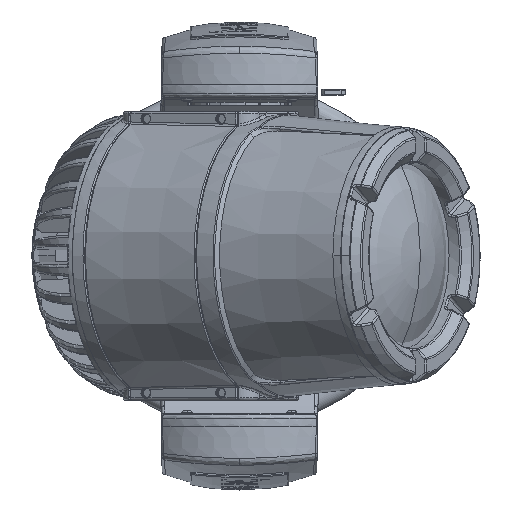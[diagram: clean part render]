
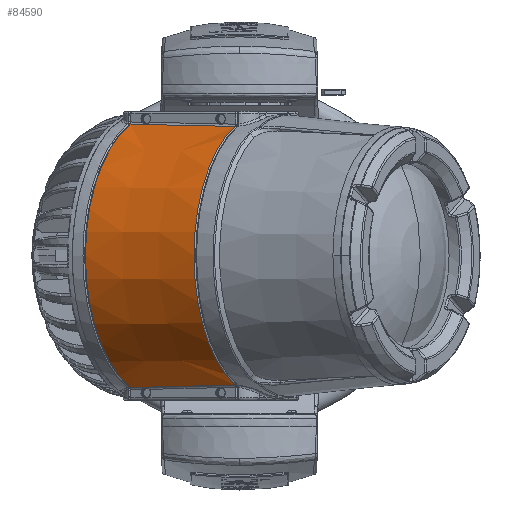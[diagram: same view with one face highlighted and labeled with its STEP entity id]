
A CAD part, top view. The second image highlights one B-rep face of the part: STEP entity #84590.
In plain terms, the highlighted conical face has half-angle 1 degrees and reference radius 2931.39 mm.
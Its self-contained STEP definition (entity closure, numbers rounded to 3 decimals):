
#83511=CARTESIAN_POINT('',(-93.634,2662.563,
-288.48));
#83512=CARTESIAN_POINT('',(-333.716,2667.818,
-427.072));
#83513=CARTESIAN_POINT('',(-813.722,2678.383,
-704.071));
#83514=CARTESIAN_POINT('',(-1533.877,2694.105,
-1119.869));
#83515=CARTESIAN_POINT('',(-2013.767,2704.662,
-1396.795));
#83516=CARTESIAN_POINT('',(-2253.737,2709.914,
-1535.323));
#83518=CARTESIAN_POINT('',(475.38,0.,
-1315.131));
#83519=DIRECTION('',(-0.875,0.,-0.485));
#83520=DIRECTION('',(-0.485,0.,0.875));
#83521=AXIS2_PLACEMENT_3D('',#83518,#83519,#83520);
#83523=CARTESIAN_POINT('',(475.38,0.,
-1315.131));
#83524=DIRECTION('',(-0.875,0.,-0.485));
#83525=DIRECTION('',(-0.196,-0.915,0.353));
#83526=AXIS2_PLACEMENT_3D('',#83523,#83524,#83525);
#83528=CARTESIAN_POINT('',(-2253.737,-2709.914,
-1535.323));
#83529=CARTESIAN_POINT('',(-2013.767,-2704.662,
-1396.796));
#83530=CARTESIAN_POINT('',(-1533.878,-2694.104,
-1119.869));
#83531=CARTESIAN_POINT('',(-813.722,-2678.383,
-704.071));
#83532=CARTESIAN_POINT('',(-333.717,-2667.818,
-427.072));
#83533=CARTESIAN_POINT('',(-93.634,-2662.563,
-288.479));
#83535=CARTESIAN_POINT('',(-1649.903,0.,
-2540.092));
#83536=DIRECTION('',(0.857,0.,0.515));
#83537=DIRECTION('',(-0.204,0.918,0.34));
#83538=AXIS2_PLACEMENT_3D('',#83535,#83536,#83537);
#84402=CARTESIAN_POINT('',(-93.672,-2662.537,
-288.533));
#84404=VERTEX_POINT('',#84402);
#84407=CARTESIAN_POINT('',(-93.672,2662.537,
-288.533));
#84409=VERTEX_POINT('',#84407);
#84537=VERTEX_POINT('',#83516);
#84538=CARTESIAN_POINT('',(-2253.664,-2709.913,
-1535.266));
#84539=VERTEX_POINT('',#84538);
#84540=CARTESIAN_POINT('',(-935.31,-0.001,
1229.821));
#84541=VERTEX_POINT('',#84540);
#84573=CARTESIAN_POINT('',(-587.272,0.,
-1928.34));
#84574=DIRECTION('',(-0.866,0.,-0.5));
#84575=DIRECTION('',(0.5,0.,-0.866));
#84576=AXIS2_PLACEMENT_3D('',#84573,#84574,#84575);
#84577=CONICAL_SURFACE('',#84576,2931.389,1.);
#84579=ORIENTED_EDGE('',*,*,#84578,.F.);
#84581=ORIENTED_EDGE('',*,*,#84580,.F.);
#84583=ORIENTED_EDGE('',*,*,#84582,.F.);
#84585=ORIENTED_EDGE('',*,*,#84584,.F.);
#84587=ORIENTED_EDGE('',*,*,#84586,.F.);
#84588=EDGE_LOOP('',(#84579,#84581,#84583,#84585,#84587));
#84589=FACE_OUTER_BOUND('',#84588,.F.);
#83517=B_SPLINE_CURVE_WITH_KNOTS('',3,(#83511,#83512,#83513,#83514,#83515,
#83516),.UNSPECIFIED.,.F.,.F.,(4,1,1,4),(0.,0.333,
0.667,1.),.UNSPECIFIED.);
#83522=CIRCLE('',#83521,2909.782);
#83527=CIRCLE('',#83526,2909.782);
#83534=B_SPLINE_CURVE_WITH_KNOTS('',3,(#83528,#83529,#83530,#83531,#83532,
#83533),.UNSPECIFIED.,.F.,.F.,(4,1,1,4),(0.,0.333,
0.667,1.),.UNSPECIFIED.);
#83539=CIRCLE('',#83538,2952.598);
#84578=EDGE_CURVE('',#84409,#84537,#83517,.T.);
#84580=EDGE_CURVE('',#84541,#84409,#83522,.T.);
#84582=EDGE_CURVE('',#84404,#84541,#83527,.T.);
#84584=EDGE_CURVE('',#84539,#84404,#83534,.T.);
#84586=EDGE_CURVE('',#84537,#84539,#83539,.T.);
#84590=ADVANCED_FACE('',(#84589),#84577,.T.);
